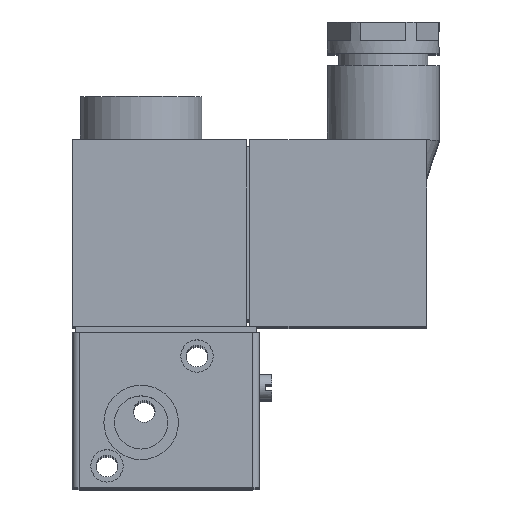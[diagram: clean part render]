
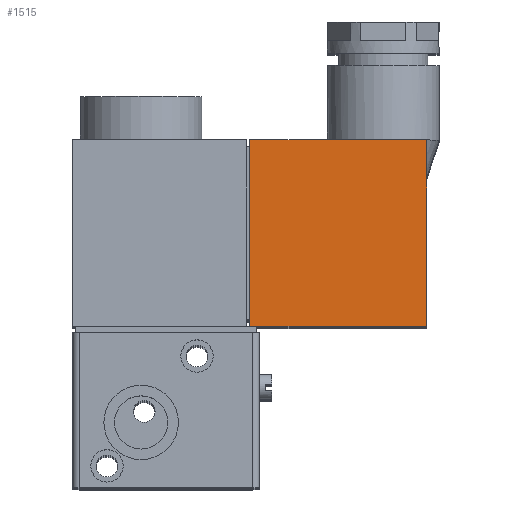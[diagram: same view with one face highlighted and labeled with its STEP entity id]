
A CAD part, top view. The second image highlights one B-rep face of the part: STEP entity #1515.
In plain terms, the highlighted planar face has unit normal (0, 0, 1).
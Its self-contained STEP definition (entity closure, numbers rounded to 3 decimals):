
#219=FACE_OUTER_BOUND('',#332,.T.);
#332=EDGE_LOOP('',(#1274,#1275,#1276,#1277));
#418=LINE('',#2528,#539);
#448=LINE('',#2592,#569);
#450=LINE('',#2598,#571);
#451=LINE('',#2600,#572);
#539=VECTOR('',#2062,1000.);
#569=VECTOR('',#2116,1000.);
#571=VECTOR('',#2124,1000.);
#572=VECTOR('',#2127,1000.);
#748=VERTEX_POINT('',#2525);
#749=VERTEX_POINT('',#2527);
#769=VERTEX_POINT('',#2586);
#771=VERTEX_POINT('',#2590);
#912=EDGE_CURVE('',#748,#749,#418,.T.);
#943=EDGE_CURVE('',#769,#771,#448,.T.);
#947=EDGE_CURVE('',#748,#769,#450,.T.);
#948=EDGE_CURVE('',#749,#771,#451,.T.);
#1274=ORIENTED_EDGE('',*,*,#943,.T.);
#1275=ORIENTED_EDGE('',*,*,#948,.F.);
#1276=ORIENTED_EDGE('',*,*,#912,.F.);
#1277=ORIENTED_EDGE('',*,*,#947,.T.);
#1431=PLANE('',#1730);
#1515=ADVANCED_FACE('',(#219),#1431,.F.);
#1730=AXIS2_PLACEMENT_3D('',#2599,#2125,#2126);
#2062=DIRECTION('',(0.,-1.,0.));
#2116=DIRECTION('',(0.,-1.,0.));
#2124=DIRECTION('',(-1.,0.,0.));
#2125=DIRECTION('center_axis',(0.,0.,-1.));
#2126=DIRECTION('ref_axis',(-1.,0.,0.));
#2127=DIRECTION('',(-1.,0.,0.));
#2525=CARTESIAN_POINT('',(57.,30.,22.));
#2527=CARTESIAN_POINT('',(57.,0.,22.));
#2528=CARTESIAN_POINT('',(57.,30.,22.));
#2586=CARTESIAN_POINT('',(28.5,30.,22.));
#2590=CARTESIAN_POINT('',(28.5,0.,22.));
#2592=CARTESIAN_POINT('',(28.5,30.,22.));
#2598=CARTESIAN_POINT('',(57.,30.,22.));
#2599=CARTESIAN_POINT('Origin',(57.,30.,22.));
#2600=CARTESIAN_POINT('',(57.,0.,22.));
